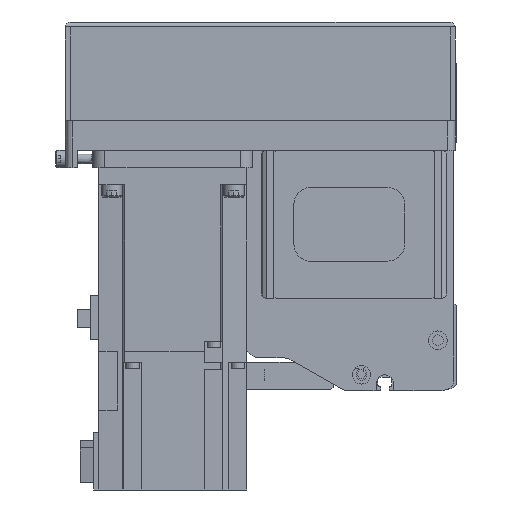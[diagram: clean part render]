
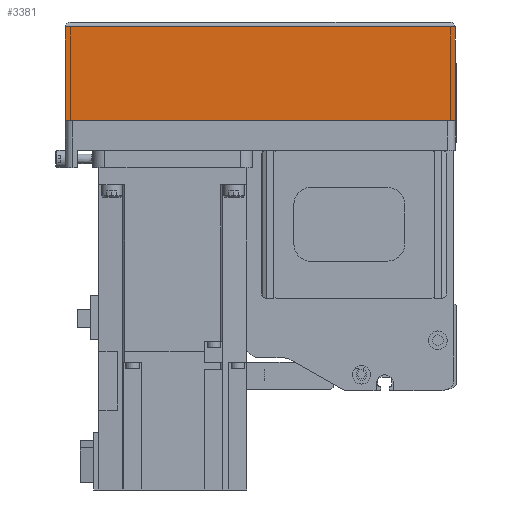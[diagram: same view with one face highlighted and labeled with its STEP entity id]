
A CAD part, left-side view. The second image highlights one B-rep face of the part: STEP entity #3381.
In plain terms, the highlighted planar face has unit normal (-1, 0, 0) as drawn and (0, 1, 0) by its records, which use the part's own axes.
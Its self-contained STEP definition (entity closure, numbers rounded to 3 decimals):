
#3381 = ADVANCED_FACE( '', ( #7031 ), #7032, .T. );
#7031 = FACE_OUTER_BOUND( '', #10659, .T. );
#7032 = PLANE( '', #10660 );
#10659 = EDGE_LOOP( '', ( #20150, #20151, #20152, #20153 ) );
#10660 = AXIS2_PLACEMENT_3D( '', #20154, #20155, #20156 );
#20150 = ORIENTED_EDGE( '', *, *, #22449, .F. );
#20151 = ORIENTED_EDGE( '', *, *, #23797, .F. );
#20152 = ORIENTED_EDGE( '', *, *, #23443, .T. );
#20153 = ORIENTED_EDGE( '', *, *, #22485, .T. );
#20154 = CARTESIAN_POINT( '', ( -158., 39., -50. ) );
#20155 = DIRECTION( '', ( 0., 1., 0. ) );
#20156 = DIRECTION( '', ( 0., 0., 1. ) );
#22449 = EDGE_CURVE( '', #27574, #24214, #27575, .T. );
#22485 = EDGE_CURVE( '', #24663, #24214, #27635, .T. );
#23443 = EDGE_CURVE( '', #28901, #24663, #28902, .T. );
#23797 = EDGE_CURVE( '', #28901, #27574, #29317, .T. );
#24214 = VERTEX_POINT( '', #29863 );
#24663 = VERTEX_POINT( '', #30516 );
#27574 = VERTEX_POINT( '', #35143 );
#27575 = LINE( '', #35144, #35145 );
#27635 = LINE( '', #35217, #35218 );
#28901 = VERTEX_POINT( '', #37262 );
#28902 = LINE( '', #37263, #37264 );
#29317 = LINE( '', #37807, #37808 );
#29863 = CARTESIAN_POINT( '', ( 0., 39., -12.1 ) );
#30516 = CARTESIAN_POINT( '', ( -158., 39., -12.1 ) );
#35143 = CARTESIAN_POINT( '', ( 0., 39., -50. ) );
#35144 = CARTESIAN_POINT( '', ( 0., 39., -50. ) );
#35145 = VECTOR( '', #40859, 1000. );
#35217 = CARTESIAN_POINT( '', ( -158., 39., -12.1 ) );
#35218 = VECTOR( '', #40923, 1000. );
#37262 = CARTESIAN_POINT( '', ( -158., 39., -50. ) );
#37263 = CARTESIAN_POINT( '', ( -158., 39., -50. ) );
#37264 = VECTOR( '', #41909, 1000. );
#37807 = CARTESIAN_POINT( '', ( -158., 39., -50. ) );
#37808 = VECTOR( '', #42246, 1000. );
#40859 = DIRECTION( '', ( 0., 0., 1. ) );
#40923 = DIRECTION( '', ( 1., 0., 0. ) );
#41909 = DIRECTION( '', ( 0., 0., 1. ) );
#42246 = DIRECTION( '', ( 1., 0., 0. ) );
